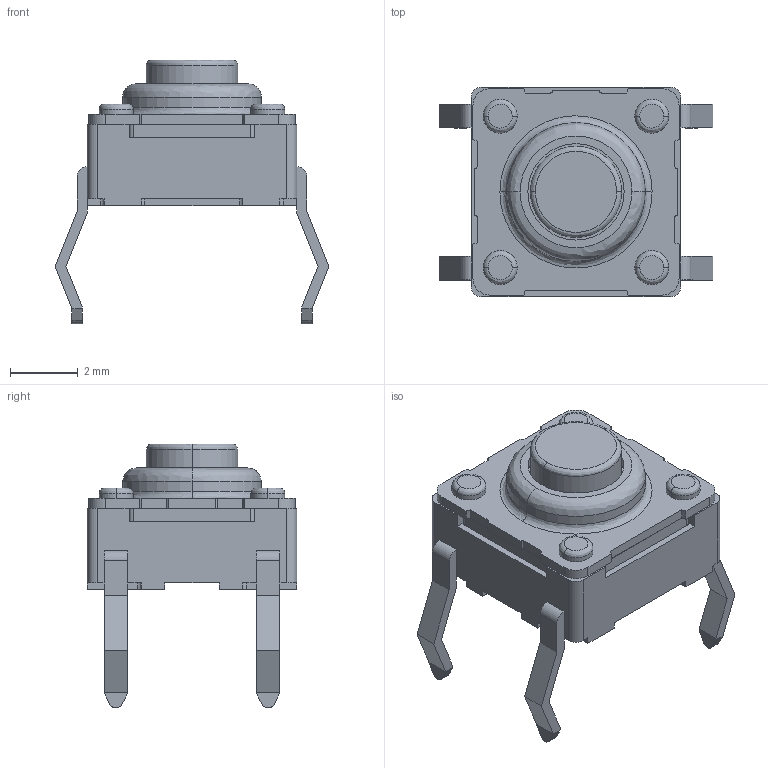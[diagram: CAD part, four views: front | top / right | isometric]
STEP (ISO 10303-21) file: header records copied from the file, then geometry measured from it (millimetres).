
FILE_DESCRIPTION (( 'STEP AP214' ), '1' );
FILE_NAME ('SKHWAL.STEP', '2013-01-22T05:34:41', ( 'Suzuki Kiyoshi' ), ( 'ａｌｐｓ' ), 'SwSTEP 2.0', 'SolidWorks 2010', '' );
FILE_SCHEMA (( 'AUTOMOTIVE_DESIGN' ));
Length unit declared in the file: millimetre
Products named in the file (1): SKHWAL
Bounding box: 8.1 x 6.2 x 7.8 mm (x, y, z)
Volume: 117.1 mm3; surface area: 203.9 mm2
Topology: 1 solids, 1 shells, 209 faces, 568 edges, 368 vertices
Faces by surface type: plane 141, cylinder 54, bspline 14
Entity records: 9119 total; most frequent: CARTESIAN_POINT 1516, ORIENTED_EDGE 1136, DIRECTION 1062, EDGE_CURVE 568, LINE 426, VECTOR 426, VERTEX_POINT 368, AXIS2_PLACEMENT_3D 318
